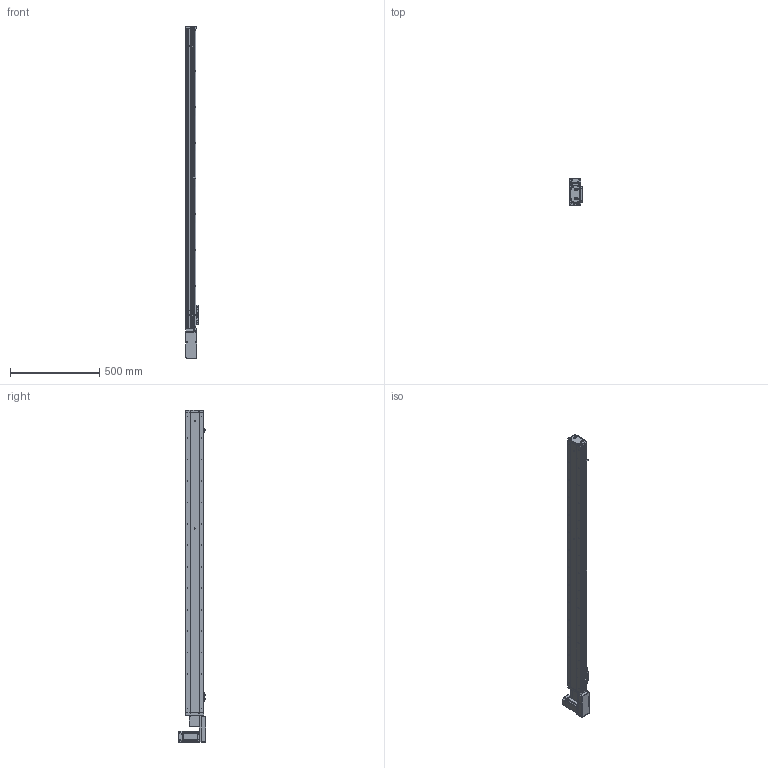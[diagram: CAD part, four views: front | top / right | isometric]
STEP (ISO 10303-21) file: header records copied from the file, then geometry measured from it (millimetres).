
FILE_DESCRIPTION (( 'STEP AP214' ), '1' );
FILE_NAME ('KSD100B-S1500-MRB-CR.STEP', '2019-09-07T09:25:39', ( '微软用户' ), ( '微软中国' ), 'SwSTEP 2.0', 'SolidWorks 2014', '' );
FILE_SCHEMA (( 'AUTOMOTIVE_DESIGN' ));
Length unit declared in the file: millimetre
Products named in the file (15): 100宽马达安装板同步带右; 100遵鎮湛假蚾啣蜊; 100宽端板同步带全封闭; 100宽滚珠螺姆安装板1防护罩; 100宽滚珠螺姆安装板1; 100遵裔啣揤啣; 100遵裔啣1500俴最; 100宽侧板1500行程同步带; 100宽底板全封闭1500行程同步带; KSD100B-S1500-MRB-CR; MHMD042G1CA_2_03; 悵誘欶奻狟殏; 100宽马达安装板连板上下折丝杆同步带; U倰嫖萇EEㄜSX672; 感应片100宽全封闭
Assembly tree (18 placements, depth 2):
  KSD100B-S1500-MRB-CR
    100宽底板全封闭1500行程同步带
    100宽侧板1500行程同步带  x2
    100遵裔啣1500俴最
    100遵裔啣揤啣  x2
    100宽滚珠螺姆安装板1
    100宽滚珠螺姆安装板1防护罩
    100宽端板同步带全封闭
    100遵鎮湛假蚾啣蜊
    100宽马达安装板同步带右
    感应片100宽全封闭
    U倰嫖萇EEㄜSX672  x3
    100宽马达安装板连板上下折丝杆同步带
    悵誘欶奻狟殏
    MHMD042G1CA_2_03
Bounding box: 70 x 156.2 x 1857 mm (x, y, z)
Volume: 3394336.6 mm3; surface area: 1484568.1 mm2
Topology: 17 solids, 18 shells, 1961 faces, 5484 edges, 3469 vertices
Faces by surface type: cylinder 897, plane 741, cone 303, bspline 20
Entity records: 69652 total; most frequent: CARTESIAN_POINT 10802, DIRECTION 9538, ORIENTED_EDGE 8756, EDGE_CURVE 4450, AXIS2_PLACEMENT_3D 3487, VERTEX_POINT 2947, VECTOR 2564, LINE 2564
